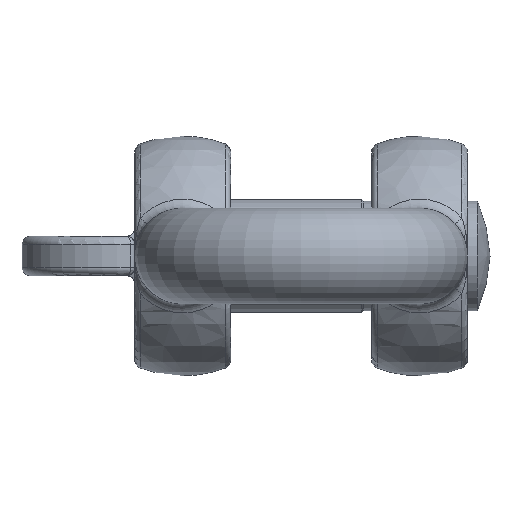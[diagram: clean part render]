
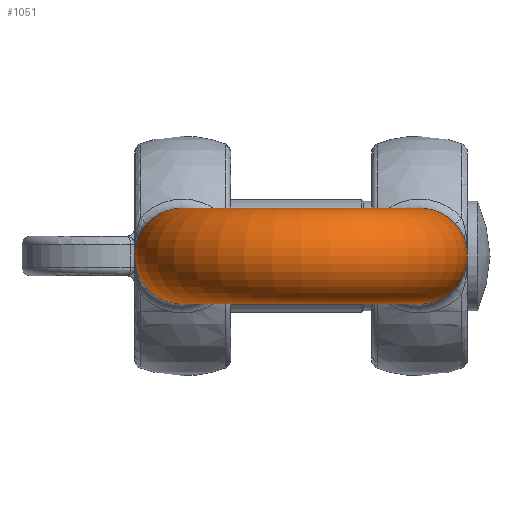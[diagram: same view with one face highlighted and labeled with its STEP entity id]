
A CAD part, front view. The second image highlights one B-rep face of the part: STEP entity #1051.
In plain terms, the highlighted toroidal (fillet/blend) face has major radius 42 mm and minor radius 17 mm.
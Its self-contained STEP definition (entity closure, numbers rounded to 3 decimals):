
#55=TOROIDAL_SURFACE('',#1208,42.,17.);
#183=FACE_OUTER_BOUND('',#256,.T.);
#256=EDGE_LOOP('',(#862,#863,#864,#865,#866,#867));
#390=CIRCLE('',#1206,17.);
#391=CIRCLE('',#1207,17.);
#392=CIRCLE('',#1209,25.);
#393=CIRCLE('',#1210,17.);
#394=CIRCLE('',#1211,17.);
#475=VERTEX_POINT('',#2575);
#476=VERTEX_POINT('',#2577);
#477=VERTEX_POINT('',#2581);
#478=VERTEX_POINT('',#2583);
#610=EDGE_CURVE('',#475,#476,#390,.T.);
#611=EDGE_CURVE('',#476,#475,#391,.T.);
#612=EDGE_CURVE('',#476,#477,#392,.T.);
#613=EDGE_CURVE('',#477,#478,#393,.T.);
#614=EDGE_CURVE('',#478,#477,#394,.T.);
#862=ORIENTED_EDGE('',*,*,#611,.F.);
#863=ORIENTED_EDGE('',*,*,#612,.T.);
#864=ORIENTED_EDGE('',*,*,#613,.T.);
#865=ORIENTED_EDGE('',*,*,#614,.T.);
#866=ORIENTED_EDGE('',*,*,#612,.F.);
#867=ORIENTED_EDGE('',*,*,#610,.F.);
#1051=ADVANCED_FACE('',(#183),#55,.T.);
#1206=AXIS2_PLACEMENT_3D('',#2578,#1411,#1412);
#1207=AXIS2_PLACEMENT_3D('',#2579,#1413,#1414);
#1208=AXIS2_PLACEMENT_3D('',#2580,#1415,#1416);
#1209=AXIS2_PLACEMENT_3D('',#2582,#1417,#1418);
#1210=AXIS2_PLACEMENT_3D('',#2584,#1419,#1420);
#1211=AXIS2_PLACEMENT_3D('',#2585,#1421,#1422);
#1411=DIRECTION('center_axis',(0.,1.,0.));
#1412=DIRECTION('ref_axis',(1.,0.,0.));
#1413=DIRECTION('center_axis',(0.,1.,0.));
#1414=DIRECTION('ref_axis',(1.,0.,0.));
#1415=DIRECTION('center_axis',(0.,0.,-1.));
#1416=DIRECTION('ref_axis',(-1.,0.,0.));
#1417=DIRECTION('center_axis',(0.,0.,1.));
#1418=DIRECTION('ref_axis',(-1.,0.,0.));
#1419=DIRECTION('center_axis',(0.,-1.,0.));
#1420=DIRECTION('ref_axis',(-1.,0.,0.));
#1421=DIRECTION('center_axis',(0.,-1.,0.));
#1422=DIRECTION('ref_axis',(-1.,0.,0.));
#2575=CARTESIAN_POINT('',(-59.,59.,0.));
#2577=CARTESIAN_POINT('',(-25.,59.,0.));
#2578=CARTESIAN_POINT('Origin',(-42.,59.,0.));
#2579=CARTESIAN_POINT('Origin',(-42.,59.,0.));
#2580=CARTESIAN_POINT('Origin',(0.,59.,0.));
#2581=CARTESIAN_POINT('',(25.,59.,0.));
#2582=CARTESIAN_POINT('Origin',(0.,59.,0.));
#2583=CARTESIAN_POINT('',(59.,59.,0.));
#2584=CARTESIAN_POINT('Origin',(42.,59.,0.));
#2585=CARTESIAN_POINT('Origin',(42.,59.,0.));
